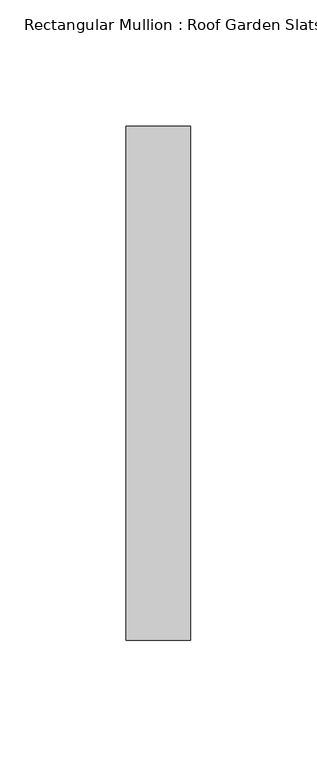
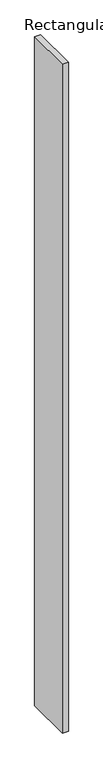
"""IFC4 building model written with IfcOpenShell, lengths in millimetres: member geometry, Rectangular Mullion : Roof Garden Slats."""

import ifcopenshell
import ifcopenshell.guid

model = None  # the IFC model being written
_history = None  # IfcOwnerHistory: only IFC2X3 demands one
_inside = {}  # id of a spatial element -> (the spatial element, [elements in it])
_under = {}  # id of a project, library or spatial element -> (it, [spatial elements below it])
_declared = {}  # id of a project -> (the project, [libraries it declares])
_typed = {}  # id of a type object -> (the type object, [elements of that type])
_made_of = {}  # id of a material, layer set ... -> (it, [elements and type objects made of it])


def new_model(schema):
    """Start an empty IFC model of exactly this schema.

    Asked for "IFC4X3", IfcOpenShell would pick the latest addendum, in which some entities
    have other attributes; the version numbers below select the first issue.
    IFC2X3 requires an IfcOwnerHistory on every rooted entity: one is made here for all.
    """
    global model, _history
    if schema == "IFC4X3":
        model = ifcopenshell.file(schema_version=(4, 3, 0, 0))
    else:
        model = ifcopenshell.file(schema=schema)
    _inside.clear()
    _under.clear()
    _declared.clear()
    _typed.clear()
    _made_of.clear()
    _history = None
    if model.schema == "IFC2X3":
        org = make("IfcOrganization", Name="unknown")
        user = make(
            "IfcPersonAndOrganization",
            ThePerson=make("IfcPerson", FamilyName="unknown"),
            TheOrganization=org,
        )
        app = make(
            "IfcApplication",
            ApplicationDeveloper=org,
            Version="unknown",
            ApplicationFullName="unknown",
            ApplicationIdentifier="unknown",
        )
        _history = make(
            "IfcOwnerHistory",
            OwningUser=user,
            OwningApplication=app,
            ChangeAction="ADDED",
            CreationDate=0,
        )
    return model


def make(cls, **values):
    """One entity of the class cls with the attributes given. An attribute that is None is left unset."""
    return model.create_entity(
        cls, **{name: value for name, value in values.items() if value is not None}
    )


def rooted(cls, **values):
    """An entity with a GlobalId (a new one), such as an element, a storey or a relation."""
    return make(cls, GlobalId=ifcopenshell.guid.new(), OwnerHistory=_history, **values)


def si_unit(unit_type, name, prefix=None):
    """IfcSIUnit, for example si_unit("LENGTHUNIT", "METRE", prefix="MILLI")."""
    return make("IfcSIUnit", UnitType=unit_type, Prefix=prefix, Name=name)


def assignment(units):
    """IfcUnitAssignment: the units of a project."""
    return None if units is None else make("IfcUnitAssignment", Units=units)


def point(xyz):
    """IfcCartesianPoint."""
    return None if xyz is None else make("IfcCartesianPoint", Coordinates=xyz)


def direction(xyz):
    """IfcDirection."""
    return None if xyz is None else make("IfcDirection", DirectionRatios=xyz)


def frame(location, z_axis=None, x_axis=None):
    """IfcAxis2Placement3D, a coordinate frame: its origin and axes. An axis left out is left unset."""
    return make(
        "IfcAxis2Placement3D",
        Location=point(location),
        Axis=direction(z_axis),
        RefDirection=direction(x_axis),
    )


def origin():
    """The frame at (0, 0, 0) with its axes left unset."""
    return frame((0.0, 0.0, 0.0))


def place(relative_to, where):
    """IfcLocalPlacement: puts the frame where relative to a parent placement (None: the world)."""
    return make(
        "IfcLocalPlacement", PlacementRelTo=relative_to, RelativePlacement=where
    )


def context(
    kind, dimensions, precision=None, world=None, true_north=None, identifier=None
):
    """IfcGeometricRepresentationContext, for example the 3D "Model" context."""
    return make(
        "IfcGeometricRepresentationContext",
        ContextIdentifier=identifier,
        ContextType=kind,
        CoordinateSpaceDimension=dimensions,
        Precision=precision,
        WorldCoordinateSystem=world,
        TrueNorth=true_north,
    )


def project(units=None, contexts=None):
    """IfcProject with its units and contexts."""
    return rooted(
        "IfcProject",
        Name="project",
        RepresentationContexts=contexts,
        UnitsInContext=assignment(units),
    )


def spatial(cls, under=None, at=None, **own):
    """A site, building, storey or space (cls), placed at a placement, below another one or the project."""
    s = rooted(cls, ObjectPlacement=at, **own)
    if under is not None:
        _under.setdefault(under.id(), (under, []))[1].append(s)
    return s


def polyline(points):
    """IfcPolyline through the points."""
    return make("IfcPolyline", Points=[point(p) for p in points])


def outline(outer, holes=None, kind="AREA"):
    """IfcArbitraryClosedProfileDef: a profile drawn as a closed curve; with holes, ...WithVoids."""
    if holes is None:
        return make("IfcArbitraryClosedProfileDef", ProfileType=kind, OuterCurve=outer)
    return make(
        "IfcArbitraryProfileDefWithVoids",
        ProfileType=kind,
        OuterCurve=outer,
        InnerCurves=holes,
    )


def extrude(swept, where, along, depth):
    """IfcExtrudedAreaSolid: the profile swept, set in the frame where, extruded along a direction by depth."""
    return make(
        "IfcExtrudedAreaSolid",
        SweptArea=swept,
        Position=where,
        ExtrudedDirection=direction(along),
        Depth=depth,
    )


def shape(context_of_items, identifier, shape_type, items):
    """IfcShapeRepresentation: the items that make up one representation, for example the "Body"."""
    return make(
        "IfcShapeRepresentation",
        ContextOfItems=context_of_items,
        RepresentationIdentifier=identifier,
        RepresentationType=shape_type,
        Items=items,
    )


def source(mapping_origin, context_of_items, identifier, shape_type, items):
    """IfcRepresentationMap: a shape defined once, which mapped items show again and again."""
    return make(
        "IfcRepresentationMap",
        MappingOrigin=mapping_origin,
        MappedRepresentation=shape(context_of_items, identifier, shape_type, items),
    )


def transform(
    local_origin,
    x_axis=None,
    y_axis=None,
    z_axis=None,
    scale=None,
    scale2=None,
    scale3=None,
    uniform=True,
):
    """IfcCartesianTransformationOperator3D, or its non-uniform kind. x_axis, y_axis, z_axis: its Axis1, 2, 3."""
    if uniform:
        return make(
            "IfcCartesianTransformationOperator3D",
            Axis1=direction(x_axis),
            Axis2=direction(y_axis),
            LocalOrigin=point(local_origin),
            Scale=scale,
            Axis3=direction(z_axis),
        )
    return make(
        "IfcCartesianTransformationOperator3DnonUniform",
        Axis1=direction(x_axis),
        Axis2=direction(y_axis),
        LocalOrigin=point(local_origin),
        Scale=scale,
        Axis3=direction(z_axis),
        Scale2=scale2,
        Scale3=scale3,
    )


def mapped(mapping_source, mapping_target):
    """IfcMappedItem: shows the shape of a source again, moved by a transform."""
    return make(
        "IfcMappedItem", MappingSource=mapping_source, MappingTarget=mapping_target
    )


def made_of(thing, what):
    """Note that an element or type object is made of a material, layer set ...; save() writes the relation."""
    if what is not None:
        _made_of.setdefault(what.id(), (what, []))[1].append(thing)
    return thing


def element(
    cls,
    number,
    at=None,
    inside=None,
    cuts=None,
    type_object=None,
    material=None,
    context=None,
    identifier="Body",
    shape_type=None,
    held_by="IfcProductDefinitionShape",
    body=None,
    shapes=None,
    **own,
):
    """One element of the class cls, such as IfcWall. Its Tag is "e" and its number.

    at: its placement. inside: the storey or other place that contains it. cuts: it is an
    opening in that element (IfcRelVoidsElement). A single representation is given by context,
    identifier, shape_type and body (its items); several are given by shapes. held_by: the class
    of the entity that holds the representations. save() writes the other relations.
    """
    e = rooted(cls, Tag="e%d" % number, ObjectPlacement=at, **own)
    if body is not None:
        shapes = [shape(context, identifier, shape_type, body)]
    if shapes is not None:
        e.Representation = make(held_by, Representations=shapes)
    if inside is not None:
        _inside.setdefault(inside.id(), (inside, []))[1].append(e)
    if cuts is not None:
        rooted(
            "IfcRelVoidsElement", RelatingBuildingElement=cuts, RelatedOpeningElement=e
        )
    if type_object is not None:
        _typed.setdefault(type_object.id(), (type_object, []))[1].append(e)
    return made_of(e, material)


def aggregate(whole, parts):
    """IfcRelAggregates: a whole, such as a stair, and the parts it consists of."""
    return rooted("IfcRelAggregates", RelatingObject=whole, RelatedObjects=parts)


def save(model, path):
    """Write the relations noted so far, then the file.

    IfcRelAggregates (storeys below a building ...), IfcRelContainedInSpatialStructure (elements
    in a storey), IfcRelDefinesByType, IfcRelAssociatesMaterial and IfcRelDeclares: one each for
    every whole, place, type object, material and project.
    """
    for whole, parts in _under.values():
        aggregate(whole, parts)
    for where, things in _inside.values():
        rooted(
            "IfcRelContainedInSpatialStructure",
            RelatedElements=things,
            RelatingStructure=where,
        )
    for kind, things in _typed.values():
        rooted("IfcRelDefinesByType", RelatedObjects=things, RelatingType=kind)
    for what, things in _made_of.values():
        rooted("IfcRelAssociatesMaterial", RelatedObjects=things, RelatingMaterial=what)
    for by, libraries in _declared.values():
        rooted("IfcRelDeclares", RelatingContext=by, RelatedDefinitions=libraries)
    model.write(path)


def rectangular_mullion_roof_garden_slats_fcdc8677(model_context):
    return source(origin(), model_context, "Body", "SweptSolid", [
        extrude(outline(polyline([(12.7, 139.7), (12.7, -63.5), (-12.7, -63.5), (-12.7, 139.7), (12.7, 139.7)])), frame((0.0, 0.0, -2997.2), z_axis=(0.0, 0.0, 1.0), x_axis=(1.0, 0.0, 0.0)), (0.0, 0.0, 1.0), 2997.2),
    ])


if __name__ == "__main__":
    model = new_model("IFC4")
    model_context = context("Model", 3, world=origin())
    ifc_project = project(units=[si_unit("LENGTHUNIT", "METRE", prefix="MILLI")], contexts=[model_context])
    site = spatial("IfcSite", under=ifc_project)
    building = spatial("IfcBuilding", under=site)
    placement = place(None, origin())
    rectangular_mullion_roof_garden_slats_shape = rectangular_mullion_roof_garden_slats_fcdc8677(model_context)
    element("IfcMember", 1, ObjectType="Rectangular Mullion : Roof Garden Slats", at=placement, inside=building, context=model_context, shape_type="MappedRepresentation", body=[
        mapped(rectangular_mullion_roof_garden_slats_shape, transform((0.0, 0.0, 0.0), x_axis=(1.0, 0.0, 0.0), y_axis=(0.0, 1.0, 0.0), z_axis=(0.0, 0.0, 1.0))),
    ])
    save(model, "model.ifc")
